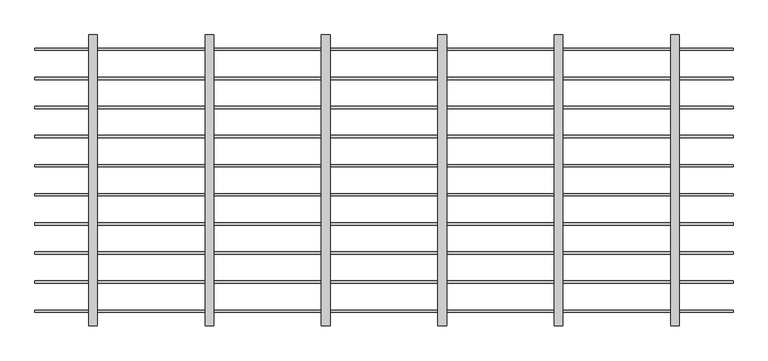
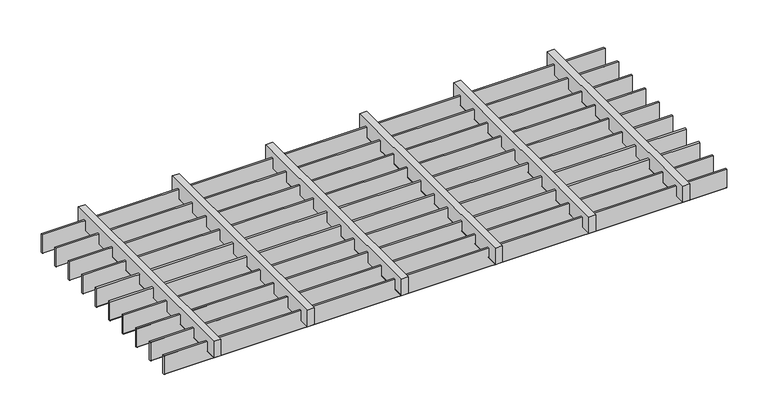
"""IFC4 building model written with IfcOpenShell, lengths in millimetres: proxy geometry, durlum_STARLAM_panel : durlum_STARLAM_4_width_cut."""

from ifc_helpers import new_model, si_unit, point, frame, frame_2d, origin, place, context, project, spatial, polyline, circle_curve, trimmed, segment, composite_curve, outline, extrude, source, transform, mapped, element, save


def generic_models_8d9bcc0e(model_context):
    return source(origin(), model_context, "Body", "SweptSolid", [
        extrude(outline(composite_curve([segment(polyline([(-177.0, 42.0), (-173.0, 42.0), (-173.0, 0.5)]), True, "CONTINUOUS"), segment(trimmed(circle_curve(frame_2d((-173.5, 0.5)), 0.5), [point((-173.0, 0.5))], [point((-173.5, 0.0))], False, "CARTESIAN"), True, "CONTINUOUS"), segment(polyline([(-173.5, 0.0), (-176.5, 0.0)]), True, "CONTINUOUS"), segment(trimmed(circle_curve(frame_2d((-176.5, 0.5)), 0.5), [point((-176.5, 0.0))], [point((-177.0, 0.5))], False, "CARTESIAN"), True, "CONTINUOUS"), segment(polyline([(-177.0, 0.5), (-177.0, 42.0)]), True, "CONTINUOUS")], self_intersect=False)), frame((-599.75, 0.0, 0.0), z_axis=(1.0, 0.0, 0.0), x_axis=(0.0, 1.0, 0.0)), (0.0, 0.0, 1.0), 1199.5),
        extrude(outline(composite_curve([segment(polyline([(-127.0, 42.0), (-123.0, 42.0), (-123.0, 0.5)]), True, "CONTINUOUS"), segment(trimmed(circle_curve(frame_2d((-123.5, 0.5)), 0.5), [point((-123.0, 0.5))], [point((-123.5, 0.0))], False, "CARTESIAN"), True, "CONTINUOUS"), segment(polyline([(-123.5, 0.0), (-126.5, 0.0)]), True, "CONTINUOUS"), segment(trimmed(circle_curve(frame_2d((-126.5, 0.5)), 0.5), [point((-126.5, 0.0))], [point((-127.0, 0.5))], False, "CARTESIAN"), True, "CONTINUOUS"), segment(polyline([(-127.0, 0.5), (-127.0, 42.0)]), True, "CONTINUOUS")], self_intersect=False)), frame((-599.75, 0.0, 0.0), z_axis=(1.0, 0.0, 0.0), x_axis=(0.0, 1.0, 0.0)), (0.0, 0.0, 1.0), 1199.5),
        extrude(outline(composite_curve([segment(polyline([(56.0, 307.5), (56.0, 292.5), (19.5, 292.5)]), True, "CONTINUOUS"), segment(trimmed(circle_curve(frame_2d((19.5, 293.0)), 0.5), [point((19.5, 292.5))], [point((19.0, 293.0))], False, "CARTESIAN"), True, "CONTINUOUS"), segment(polyline([(19.0, 293.0), (19.0, 307.0)]), True, "CONTINUOUS"), segment(trimmed(circle_curve(frame_2d((19.5, 307.0)), 0.5), [point((19.0, 307.0))], [point((19.5, 307.5))], False, "CARTESIAN"), True, "CONTINUOUS"), segment(polyline([(19.5, 307.5), (56.0, 307.5)]), True, "CONTINUOUS")], self_intersect=False)), frame((0.0, -249.75, 0.0), z_axis=(0.0, 1.0, 0.0), x_axis=(0.0, 0.0, 1.0)), (0.0, 0.0, 1.0), 499.5),
        extrude(outline(composite_curve([segment(polyline([(56.0, 107.5), (56.0, 92.5), (19.5, 92.5)]), True, "CONTINUOUS"), segment(trimmed(circle_curve(frame_2d((19.5, 93.0)), 0.5), [point((19.5, 92.5))], [point((19.0, 93.0))], False, "CARTESIAN"), True, "CONTINUOUS"), segment(polyline([(19.0, 93.0), (19.0, 107.0)]), True, "CONTINUOUS"), segment(trimmed(circle_curve(frame_2d((19.5, 107.0)), 0.5), [point((19.0, 107.0))], [point((19.5, 107.5))], False, "CARTESIAN"), True, "CONTINUOUS"), segment(polyline([(19.5, 107.5), (56.0, 107.5)]), True, "CONTINUOUS")], self_intersect=False)), frame((0.0, -249.75, 0.0), z_axis=(0.0, 1.0, 0.0), x_axis=(0.0, 0.0, 1.0)), (0.0, 0.0, 1.0), 499.5),
        extrude(outline(composite_curve([segment(polyline([(56.0, -92.5), (56.0, -107.5), (19.5, -107.5)]), True, "CONTINUOUS"), segment(trimmed(circle_curve(frame_2d((19.5, -107.0)), 0.5), [point((19.5, -107.5))], [point((19.0, -107.0))], False, "CARTESIAN"), True, "CONTINUOUS"), segment(polyline([(19.0, -107.0), (19.0, -93.0)]), True, "CONTINUOUS"), segment(trimmed(circle_curve(frame_2d((19.5, -93.0)), 0.5), [point((19.0, -93.0))], [point((19.5, -92.5))], False, "CARTESIAN"), True, "CONTINUOUS"), segment(polyline([(19.5, -92.5), (56.0, -92.5)]), True, "CONTINUOUS")], self_intersect=False)), frame((0.0, -249.75, 0.0), z_axis=(0.0, 1.0, 0.0), x_axis=(0.0, 0.0, 1.0)), (0.0, 0.0, 1.0), 499.5),
        extrude(outline(composite_curve([segment(polyline([(56.0, -292.5), (56.0, -307.5), (19.5, -307.5)]), True, "CONTINUOUS"), segment(trimmed(circle_curve(frame_2d((19.5, -307.0)), 0.5), [point((19.5, -307.5))], [point((19.0, -307.0))], False, "CARTESIAN"), True, "CONTINUOUS"), segment(polyline([(19.0, -307.0), (19.0, -293.0)]), True, "CONTINUOUS"), segment(trimmed(circle_curve(frame_2d((19.5, -293.0)), 0.5), [point((19.0, -293.0))], [point((19.5, -292.5))], False, "CARTESIAN"), True, "CONTINUOUS"), segment(polyline([(19.5, -292.5), (56.0, -292.5)]), True, "CONTINUOUS")], self_intersect=False)), frame((0.0, -249.75, 0.0), z_axis=(0.0, 1.0, 0.0), x_axis=(0.0, 0.0, 1.0)), (0.0, 0.0, 1.0), 499.5),
        extrude(outline(composite_curve([segment(polyline([(-77.0, 42.0), (-73.0, 42.0), (-73.0, 0.5)]), True, "CONTINUOUS"), segment(trimmed(circle_curve(frame_2d((-73.5, 0.5)), 0.5), [point((-73.0, 0.5))], [point((-73.5, 0.0))], False, "CARTESIAN"), True, "CONTINUOUS"), segment(polyline([(-73.5, 0.0), (-76.5, 0.0)]), True, "CONTINUOUS"), segment(trimmed(circle_curve(frame_2d((-76.5, 0.5)), 0.5), [point((-76.5, 0.0))], [point((-77.0, 0.5))], False, "CARTESIAN"), True, "CONTINUOUS"), segment(polyline([(-77.0, 0.5), (-77.0, 42.0)]), True, "CONTINUOUS")], self_intersect=False)), frame((-599.75, 0.0, 0.0), z_axis=(1.0, 0.0, 0.0), x_axis=(0.0, 1.0, 0.0)), (0.0, 0.0, 1.0), 1199.5),
        extrude(outline(composite_curve([segment(polyline([(-27.0, 42.0), (-23.0, 42.0), (-23.0, 0.5)]), True, "CONTINUOUS"), segment(trimmed(circle_curve(frame_2d((-23.5, 0.5)), 0.5), [point((-23.0, 0.5))], [point((-23.5, 0.0))], False, "CARTESIAN"), True, "CONTINUOUS"), segment(polyline([(-23.5, 0.0), (-26.5, 0.0)]), True, "CONTINUOUS"), segment(trimmed(circle_curve(frame_2d((-26.5, 0.5)), 0.5), [point((-26.5, 0.0))], [point((-27.0, 0.5))], False, "CARTESIAN"), True, "CONTINUOUS"), segment(polyline([(-27.0, 0.5), (-27.0, 42.0)]), True, "CONTINUOUS")], self_intersect=False)), frame((-599.75, 0.0, 0.0), z_axis=(1.0, 0.0, 0.0), x_axis=(0.0, 1.0, 0.0)), (0.0, 0.0, 1.0), 1199.5),
        extrude(outline(composite_curve([segment(polyline([(23.0, 42.0), (27.0, 42.0), (27.0, 0.5)]), True, "CONTINUOUS"), segment(trimmed(circle_curve(frame_2d((26.5, 0.5)), 0.5), [point((27.0, 0.5))], [point((26.5, 0.0))], False, "CARTESIAN"), True, "CONTINUOUS"), segment(polyline([(26.5, 0.0), (23.5, 0.0)]), True, "CONTINUOUS"), segment(trimmed(circle_curve(frame_2d((23.5, 0.5)), 0.5), [point((23.5, 0.0))], [point((23.0, 0.5))], False, "CARTESIAN"), True, "CONTINUOUS"), segment(polyline([(23.0, 0.5), (23.0, 42.0)]), True, "CONTINUOUS")], self_intersect=False)), frame((-599.75, 0.0, 0.0), z_axis=(1.0, 0.0, 0.0), x_axis=(0.0, 1.0, 0.0)), (0.0, 0.0, 1.0), 1199.5),
        extrude(outline(composite_curve([segment(polyline([(73.0, 42.0), (77.0, 42.0), (77.0, 0.5)]), True, "CONTINUOUS"), segment(trimmed(circle_curve(frame_2d((76.5, 0.5)), 0.5), [point((77.0, 0.5))], [point((76.5, 0.0))], False, "CARTESIAN"), True, "CONTINUOUS"), segment(polyline([(76.5, 0.0), (73.5, 0.0)]), True, "CONTINUOUS"), segment(trimmed(circle_curve(frame_2d((73.5, 0.5)), 0.5), [point((73.5, 0.0))], [point((73.0, 0.5))], False, "CARTESIAN"), True, "CONTINUOUS"), segment(polyline([(73.0, 0.5), (73.0, 42.0)]), True, "CONTINUOUS")], self_intersect=False)), frame((-599.75, 0.0, 0.0), z_axis=(1.0, 0.0, 0.0), x_axis=(0.0, 1.0, 0.0)), (0.0, 0.0, 1.0), 1199.5),
        extrude(outline(composite_curve([segment(polyline([(123.0, 42.0), (127.0, 42.0), (127.0, 0.5)]), True, "CONTINUOUS"), segment(trimmed(circle_curve(frame_2d((126.5, 0.5)), 0.5), [point((127.0, 0.5))], [point((126.5, 0.0))], False, "CARTESIAN"), True, "CONTINUOUS"), segment(polyline([(126.5, 0.0), (123.5, 0.0)]), True, "CONTINUOUS"), segment(trimmed(circle_curve(frame_2d((123.5, 0.5)), 0.5), [point((123.5, 0.0))], [point((123.0, 0.5))], False, "CARTESIAN"), True, "CONTINUOUS"), segment(polyline([(123.0, 0.5), (123.0, 42.0)]), True, "CONTINUOUS")], self_intersect=False)), frame((-599.75, 0.0, 0.0), z_axis=(1.0, 0.0, 0.0), x_axis=(0.0, 1.0, 0.0)), (0.0, 0.0, 1.0), 1199.5),
        extrude(outline(composite_curve([segment(polyline([(173.0, 42.0), (177.0, 42.0), (177.0, 0.5)]), True, "CONTINUOUS"), segment(trimmed(circle_curve(frame_2d((176.5, 0.5)), 0.5), [point((177.0, 0.5))], [point((176.5, 0.0))], False, "CARTESIAN"), True, "CONTINUOUS"), segment(polyline([(176.5, 0.0), (173.5, 0.0)]), True, "CONTINUOUS"), segment(trimmed(circle_curve(frame_2d((173.5, 0.5)), 0.5), [point((173.5, 0.0))], [point((173.0, 0.5))], False, "CARTESIAN"), True, "CONTINUOUS"), segment(polyline([(173.0, 0.5), (173.0, 42.0)]), True, "CONTINUOUS")], self_intersect=False)), frame((-599.75, 0.0, 0.0), z_axis=(1.0, 0.0, 0.0), x_axis=(0.0, 1.0, 0.0)), (0.0, 0.0, 1.0), 1199.5),
        extrude(outline(composite_curve([segment(polyline([(56.0, 507.5), (56.0, 492.5), (19.5, 492.5)]), True, "CONTINUOUS"), segment(trimmed(circle_curve(frame_2d((19.5, 493.0)), 0.5), [point((19.5, 492.5))], [point((19.0, 493.0))], False, "CARTESIAN"), True, "CONTINUOUS"), segment(polyline([(19.0, 493.0), (19.0, 507.0)]), True, "CONTINUOUS"), segment(trimmed(circle_curve(frame_2d((19.5, 507.0)), 0.5), [point((19.0, 507.0))], [point((19.5, 507.5))], False, "CARTESIAN"), True, "CONTINUOUS"), segment(polyline([(19.5, 507.5), (56.0, 507.5)]), True, "CONTINUOUS")], self_intersect=False)), frame((0.0, -249.75, 0.0), z_axis=(0.0, 1.0, 0.0), x_axis=(0.0, 0.0, 1.0)), (0.0, 0.0, 1.0), 499.5),
        extrude(outline(composite_curve([segment(polyline([(56.0, -492.5), (56.0, -507.5), (19.5, -507.5)]), True, "CONTINUOUS"), segment(trimmed(circle_curve(frame_2d((19.5, -507.0)), 0.5), [point((19.5, -507.5))], [point((19.0, -507.0))], False, "CARTESIAN"), True, "CONTINUOUS"), segment(polyline([(19.0, -507.0), (19.0, -493.0)]), True, "CONTINUOUS"), segment(trimmed(circle_curve(frame_2d((19.5, -493.0)), 0.5), [point((19.0, -493.0))], [point((19.5, -492.5))], False, "CARTESIAN"), True, "CONTINUOUS"), segment(polyline([(19.5, -492.5), (56.0, -492.5)]), True, "CONTINUOUS")], self_intersect=False)), frame((0.0, -249.75, 0.0), z_axis=(0.0, 1.0, 0.0), x_axis=(0.0, 0.0, 1.0)), (0.0, 0.0, 1.0), 499.5),
        extrude(outline(composite_curve([segment(polyline([(-227.0, 42.0), (-223.0, 42.0), (-223.0, 0.5)]), True, "CONTINUOUS"), segment(trimmed(circle_curve(frame_2d((-223.5, 0.5)), 0.5), [point((-223.0, 0.5))], [point((-223.5, 0.0))], False, "CARTESIAN"), True, "CONTINUOUS"), segment(polyline([(-223.5, 0.0), (-226.5, 0.0)]), True, "CONTINUOUS"), segment(trimmed(circle_curve(frame_2d((-226.5, 0.5)), 0.5), [point((-226.5, 0.0))], [point((-227.0, 0.5))], False, "CARTESIAN"), True, "CONTINUOUS"), segment(polyline([(-227.0, 0.5), (-227.0, 42.0)]), True, "CONTINUOUS")], self_intersect=False)), frame((-599.75, 0.0, 0.0), z_axis=(1.0, 0.0, 0.0), x_axis=(0.0, 1.0, 0.0)), (0.0, 0.0, 1.0), 1199.5),
        extrude(outline(composite_curve([segment(polyline([(223.0, 42.0), (227.0, 42.0), (227.0, 0.5)]), True, "CONTINUOUS"), segment(trimmed(circle_curve(frame_2d((226.5, 0.5)), 0.5), [point((227.0, 0.5))], [point((226.5, 0.0))], False, "CARTESIAN"), True, "CONTINUOUS"), segment(polyline([(226.5, 0.0), (223.5, 0.0)]), True, "CONTINUOUS"), segment(trimmed(circle_curve(frame_2d((223.5, 0.5)), 0.5), [point((223.5, 0.0))], [point((223.0, 0.5))], False, "CARTESIAN"), True, "CONTINUOUS"), segment(polyline([(223.0, 0.5), (223.0, 42.0)]), True, "CONTINUOUS")], self_intersect=False)), frame((-599.75, 0.0, 0.0), z_axis=(1.0, 0.0, 0.0), x_axis=(0.0, 1.0, 0.0)), (0.0, 0.0, 1.0), 1199.5),
    ])


if __name__ == "__main__":
    model = new_model("IFC4")
    model_context = context("Model", 3, world=origin())
    ifc_project = project(units=[si_unit("LENGTHUNIT", "METRE", prefix="MILLI")], contexts=[model_context])
    site = spatial("IfcSite", under=ifc_project)
    building = spatial("IfcBuilding", under=site)
    placement = place(None, origin())
    generic_models_shape = generic_models_8d9bcc0e(model_context)
    element("IfcBuildingElementProxy", 1, Name="durlum_STARLAM_panel : durlum_STARLAM_4_width_cut", ObjectType="durlum_STARLAM_panel : durlum_STARLAM_4_width_cut", at=placement, inside=building, context=model_context, shape_type="MappedRepresentation", body=[
        mapped(generic_models_shape, transform((0.0, 0.0, 0.0), x_axis=(1.0, 0.0, 0.0), y_axis=(0.0, 1.0, 0.0), z_axis=(0.0, 0.0, 1.0))),
    ])
    save(model, "model.ifc")
